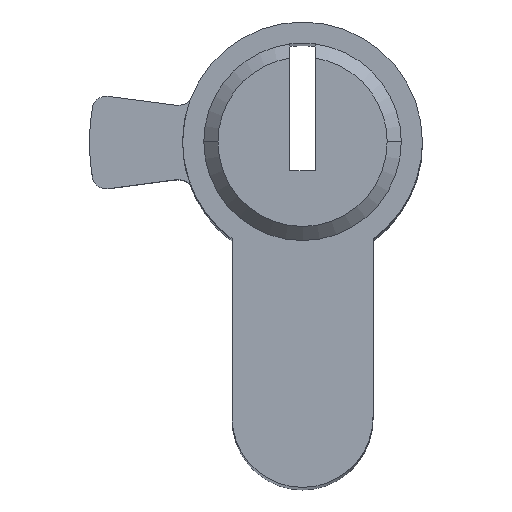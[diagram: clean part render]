
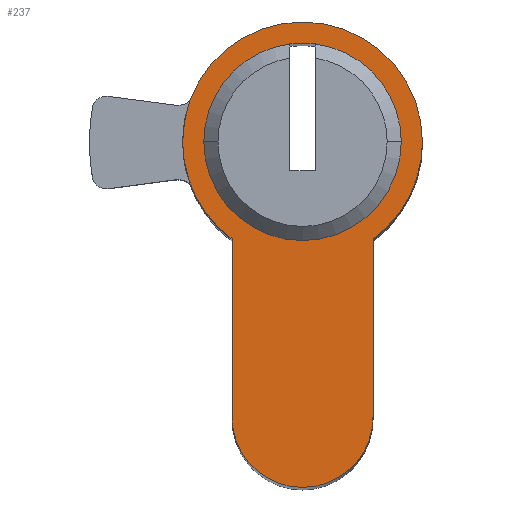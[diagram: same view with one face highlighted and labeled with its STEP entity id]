
A CAD part, top view. The second image highlights one B-rep face of the part: STEP entity #237.
In plain terms, the highlighted planar face has unit normal (0, 0, 1).
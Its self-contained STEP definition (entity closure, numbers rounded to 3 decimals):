
#9 = CARTESIAN_POINT ( 'NONE',  ( 5., -19.5, 30. ) ) ;
#44 = CIRCLE ( 'NONE', #1279, 7. ) ;
#55 = CARTESIAN_POINT ( 'NONE',  ( 0., 0., 30. ) ) ;
#60 = DIRECTION ( 'NONE',  ( 0., 0., 1. ) ) ;
#98 = LINE ( 'NONE', #1778, #654 ) ;
#117 = VERTEX_POINT ( 'NONE', #1213 ) ;
#129 = DIRECTION ( 'NONE',  ( 0., 0., 1. ) ) ;
#133 = LINE ( 'NONE', #9, #1021 ) ;
#143 = EDGE_CURVE ( 'NONE', #377, #1142, #133, .T. ) ;
#153 = ORIENTED_EDGE ( 'NONE', *, *, #956, .T. ) ;
#154 = CARTESIAN_POINT ( 'NONE',  ( -8.5, 0., 30. ) ) ;
#202 = DIRECTION ( 'NONE',  ( 1., 0., 0. ) ) ;
#211 = CARTESIAN_POINT ( 'NONE',  ( -5., -19.5, 30. ) ) ;
#213 = AXIS2_PLACEMENT_3D ( 'NONE', #946, #707, #270 ) ;
#216 = AXIS2_PLACEMENT_3D ( 'NONE', #898, #391, #1351 ) ;
#237 = ADVANCED_FACE ( 'NONE', ( #1265, #1671 ), #462, .T. ) ;
#270 = DIRECTION ( 'NONE',  ( 1., 0., 0. ) ) ;
#297 = CARTESIAN_POINT ( 'NONE',  ( 0., 0., 30. ) ) ;
#342 = AXIS2_PLACEMENT_3D ( 'NONE', #297, #657, #788 ) ;
#355 = CIRCLE ( 'NONE', #213, 8.5 ) ;
#377 = VERTEX_POINT ( 'NONE', #1038 ) ;
#384 = VERTEX_POINT ( 'NONE', #1327 ) ;
#391 = DIRECTION ( 'NONE',  ( 0., 0., 1. ) ) ;
#400 = DIRECTION ( 'NONE',  ( 0., 0., 1. ) ) ;
#418 = ORIENTED_EDGE ( 'NONE', *, *, #1144, .F. ) ;
#446 = CIRCLE ( 'NONE', #1043, 8.5 ) ;
#462 = PLANE ( 'NONE',  #1083 ) ;
#508 = ORIENTED_EDGE ( 'NONE', *, *, #1716, .F. ) ;
#514 = EDGE_CURVE ( 'NONE', #1102, #377, #938, .T. ) ;
#534 = CARTESIAN_POINT ( 'NONE',  ( 0., -19.5, 30. ) ) ;
#549 = EDGE_CURVE ( 'NONE', #1025, #812, #628, .T. ) ;
#557 = ORIENTED_EDGE ( 'NONE', *, *, #514, .T. ) ;
#563 = CIRCLE ( 'NONE', #216, 7. ) ;
#595 = ORIENTED_EDGE ( 'NONE', *, *, #1183, .F. ) ;
#600 = CARTESIAN_POINT ( 'NONE',  ( -0.9, 6.942, 30. ) ) ;
#604 = DIRECTION ( 'NONE',  ( 1., 0., 0. ) ) ;
#628 = CIRCLE ( 'NONE', #342, 7. ) ;
#648 = DIRECTION ( 'NONE',  ( 0., 0., 1. ) ) ;
#654 = VECTOR ( 'NONE', #1622, 1000. ) ;
#657 = DIRECTION ( 'NONE',  ( 0., 0., 1. ) ) ;
#673 = VERTEX_POINT ( 'NONE', #1448 ) ;
#707 = DIRECTION ( 'NONE',  ( 0., 0., 1. ) ) ;
#745 = CARTESIAN_POINT ( 'NONE',  ( 0., 0., 30. ) ) ;
#771 = EDGE_CURVE ( 'NONE', #673, #1102, #98, .T. ) ;
#782 = ORIENTED_EDGE ( 'NONE', *, *, #549, .F. ) ;
#788 = DIRECTION ( 'NONE',  ( 1., 0., 0. ) ) ;
#812 = VERTEX_POINT ( 'NONE', #937 ) ;
#838 = AXIS2_PLACEMENT_3D ( 'NONE', #55, #890, #604 ) ;
#842 = CARTESIAN_POINT ( 'NONE',  ( 7., 0., 30. ) ) ;
#890 = DIRECTION ( 'NONE',  ( 0., 0., 1. ) ) ;
#898 = CARTESIAN_POINT ( 'NONE',  ( 0., 0., 30. ) ) ;
#910 = AXIS2_PLACEMENT_3D ( 'NONE', #534, #129, #974 ) ;
#922 = CARTESIAN_POINT ( 'NONE',  ( 0., 0., 30. ) ) ;
#931 = DIRECTION ( 'NONE',  ( 1., 0., 0. ) ) ;
#932 = DIRECTION ( 'NONE',  ( 0., 1., 0. ) ) ;
#937 = CARTESIAN_POINT ( 'NONE',  ( 0.9, 6.942, 30. ) ) ;
#938 = CIRCLE ( 'NONE', #910, 5. ) ;
#943 = DIRECTION ( 'NONE',  ( 1., 0., 0. ) ) ;
#946 = CARTESIAN_POINT ( 'NONE',  ( 0., 0., 30. ) ) ;
#956 = EDGE_CURVE ( 'NONE', #117, #1727, #355, .T. ) ;
#974 = DIRECTION ( 'NONE',  ( 1., 0., 0. ) ) ;
#989 = ORIENTED_EDGE ( 'NONE', *, *, #1529, .T. ) ;
#1021 = VECTOR ( 'NONE', #932, 1000. ) ;
#1025 = VERTEX_POINT ( 'NONE', #842 ) ;
#1038 = CARTESIAN_POINT ( 'NONE',  ( 5., -19.5, 30. ) ) ;
#1039 = DIRECTION ( 'NONE',  ( 1., 0., 0. ) ) ;
#1043 = AXIS2_PLACEMENT_3D ( 'NONE', #1114, #400, #943 ) ;
#1083 = AXIS2_PLACEMENT_3D ( 'NONE', #745, #60, #202 ) ;
#1102 = VERTEX_POINT ( 'NONE', #211 ) ;
#1106 = EDGE_LOOP ( 'NONE', ( #508, #782, #418, #595 ) ) ;
#1114 = CARTESIAN_POINT ( 'NONE',  ( 0., 0., 30. ) ) ;
#1142 = VERTEX_POINT ( 'NONE', #1287 ) ;
#1144 = EDGE_CURVE ( 'NONE', #384, #1025, #1397, .T. ) ;
#1150 = ORIENTED_EDGE ( 'NONE', *, *, #771, .T. ) ;
#1170 = ORIENTED_EDGE ( 'NONE', *, *, #1326, .T. ) ;
#1183 = EDGE_CURVE ( 'NONE', #1399, #384, #563, .T. ) ;
#1213 = CARTESIAN_POINT ( 'NONE',  ( 8.5, 0., 30. ) ) ;
#1220 = CIRCLE ( 'NONE', #1686, 8.5 ) ;
#1265 = FACE_BOUND ( 'NONE', #1106, .T. ) ;
#1279 = AXIS2_PLACEMENT_3D ( 'NONE', #1391, #1781, #931 ) ;
#1287 = CARTESIAN_POINT ( 'NONE',  ( 5., -6.874, 30. ) ) ;
#1326 = EDGE_CURVE ( 'NONE', #1727, #673, #446, .T. ) ;
#1327 = CARTESIAN_POINT ( 'NONE',  ( -7., 0., 30. ) ) ;
#1351 = DIRECTION ( 'NONE',  ( 1., 0., 0. ) ) ;
#1391 = CARTESIAN_POINT ( 'NONE',  ( 0., 0., 30. ) ) ;
#1397 = CIRCLE ( 'NONE', #838, 7. ) ;
#1399 = VERTEX_POINT ( 'NONE', #600 ) ;
#1413 = ORIENTED_EDGE ( 'NONE', *, *, #143, .T. ) ;
#1448 = CARTESIAN_POINT ( 'NONE',  ( -5., -6.874, 30. ) ) ;
#1529 = EDGE_CURVE ( 'NONE', #1142, #117, #1220, .T. ) ;
#1622 = DIRECTION ( 'NONE',  ( 0., -1., 0. ) ) ;
#1671 = FACE_OUTER_BOUND ( 'NONE', #1693, .T. ) ;
#1686 = AXIS2_PLACEMENT_3D ( 'NONE', #922, #648, #1039 ) ;
#1693 = EDGE_LOOP ( 'NONE', ( #989, #153, #1170, #1150, #557, #1413 ) ) ;
#1716 = EDGE_CURVE ( 'NONE', #812, #1399, #44, .T. ) ;
#1727 = VERTEX_POINT ( 'NONE', #154 ) ;
#1778 = CARTESIAN_POINT ( 'NONE',  ( -5., -6.874, 30. ) ) ;
#1781 = DIRECTION ( 'NONE',  ( 0., 0., 1. ) ) ;
